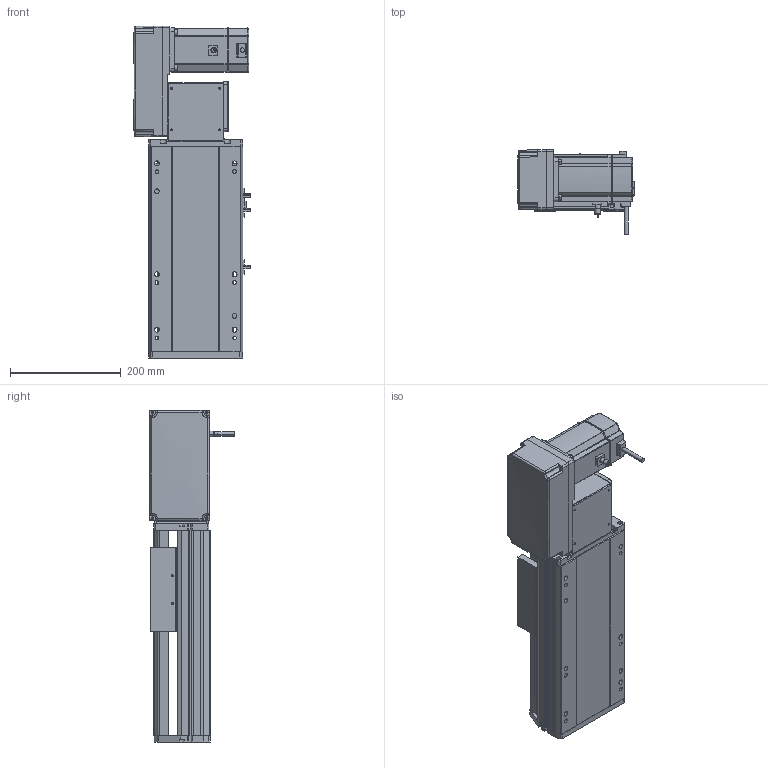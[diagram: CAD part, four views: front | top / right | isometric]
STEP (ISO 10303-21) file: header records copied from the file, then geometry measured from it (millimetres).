
FILE_DESCRIPTION (( 'STEP AP214' ), '1' );
FILE_NAME ('RTB17S-XX-100-L-M75-C4.STEP', '2025-12-12T00:05:38', ( '' ), ( '' ), 'SwSTEP 2.0', 'SolidWorks 2018', '' );
FILE_SCHEMA (( 'AUTOMOTIVE_DESIGN' ));
Length unit declared in the file: millimetre
Products named in the file (15): RTB17S-L-々湍釱蚾饜-750W^RTB17S-XX-XX-L-M75-C4; RTB17S-L-001-耜醱啣^RTB17S-XX-XX-L-M75-C4; RTB17S-L-004-賑釱^RTB17S-賑釱_RTB17S-XX-XX-L-M75-C4; RTB22S-GY-017P^RTB17S-L-々湍釱蚾饜-750W_RTB17S-XX-XX-L-M75-C4; 750W萇儂^RTB17S-XX-XX-L-M75-C4; RTB17-R-011菁釱^RTB17S-XX-XX-L-M75-C4; RMP17S-L-014-T20-P75--々湍釱^RTB17S-L-々湍釱蚾饜-750W_RTB17S-XX-XX-L-M75-C4; RTB22S-GY-005P^RTB17S-L-々湍釱蚾饜-750W_RTB17S-XX-XX-L-M75-C4; RTB22S-GY-018P^RTB17S-L-々湍釱蚾饜-750W_RTB17S-XX-XX-L-M75-C4; RTB17S-L-007奻裔^RTB17S-XX-XX-L-M75-C4; EE672^RTB17S-XX-XX-L-M75-C4; RTB17S-XX-100-L-M75-C4; RTB17S-賑釱^RTB17S-XX-XX-L-M75-C4; RTH13-BL-012覜茼え俋离^RTB17S-賑釱_RTB17S-XX-XX-L-M75-C4; RTB22S-GY-008-M75--萇儂啣^RTB17S-L-々湍釱蚾饜-750W_RTB17S-XX-XX-L-M75-C4
Assembly tree (17 placements, depth 3):
  RTB17S-XX-100-L-M75-C4
    RTB17-R-011菁釱^RTB17S-XX-XX-L-M75-C4
    EE672^RTB17S-XX-XX-L-M75-C4  x3
    RTB17S-L-001-耜醱啣^RTB17S-XX-XX-L-M75-C4
    RTB17S-賑釱^RTB17S-XX-XX-L-M75-C4
      RTB17S-L-004-賑釱^RTB17S-賑釱_RTB17S-XX-XX-L-M75-C4
      RTH13-BL-012覜茼え俋离^RTB17S-賑釱_RTB17S-XX-XX-L-M75-C4
    RTB17S-L-007奻裔^RTB17S-XX-XX-L-M75-C4
    750W萇儂^RTB17S-XX-XX-L-M75-C4
    RTB17S-L-々湍釱蚾饜-750W^RTB17S-XX-XX-L-M75-C4
      RMP17S-L-014-T20-P75--々湍釱^RTB17S-L-々湍釱蚾饜-750W_RTB17S-XX-XX-L-M75-C4
      RTB22S-GY-005P^RTB17S-L-々湍釱蚾饜-750W_RTB17S-XX-XX-L-M75-C4
      RTB22S-GY-017P^RTB17S-L-々湍釱蚾饜-750W_RTB17S-XX-XX-L-M75-C4  x2
      RTB22S-GY-008-M75--萇儂啣^RTB17S-L-々湍釱蚾饜-750W_RTB17S-XX-XX-L-M75-C4
      RTB22S-GY-018P^RTB17S-L-々湍釱蚾饜-750W_RTB17S-XX-XX-L-M75-C4
Bounding box: 210.4 x 152.7 x 599 mm (x, y, z)
Volume: 6572475 mm3; surface area: 966322.1 mm2
Topology: 17 solids, 17 shells, 2025 faces, 5566 edges, 3590 vertices
Faces by surface type: plane 962, cylinder 647, bspline 294, cone 110, sphere 8, torus 4
Entity records: 55030 total; most frequent: CARTESIAN_POINT 16030, ORIENTED_EDGE 7976, DIRECTION 7502, EDGE_CURVE 3988, AXIS2_PLACEMENT_3D 2610, VERTEX_POINT 2594, LINE 2282, VECTOR 2282
